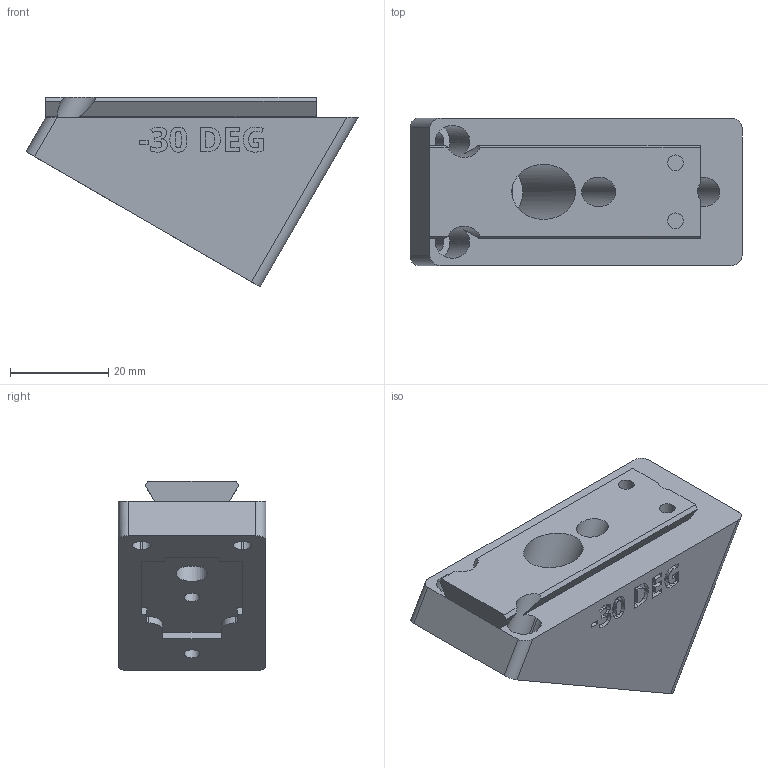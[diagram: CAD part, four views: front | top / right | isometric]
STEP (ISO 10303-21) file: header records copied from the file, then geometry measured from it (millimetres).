
FILE_DESCRIPTION(/* description */ ('STEP AP242 Edition 2','CAx-IF Rec.Pracs.---Representation and Presentation of Product Manufacturing Information (PMI)---4.0---2014-10-13','CAx-IF Rec.Pracs.---3D Tessellated Geometry---0.4---2014-09-14','2;1','CAx-IF Rec.Pracs.---User Defined Attributes---1.5---2016-08-15'),/* implementation_level */ '2;1');
FILE_NAME(/* name */ 'Camera Wedges - CAMERA MOUNTING WEDGE, NEG, -30 DEG',/* time_stamp */ '2026-08-11T00:07:49Z',/* author */ (''),/* organization */ (''),/* preprocessor_version */ 'ST-DEVELOPER v20',/* originating_system */ 'ONSHAPE BY PTC INC, 1.219',/* authorisation */ ' ');
FILE_SCHEMA (('AP242_MANAGED_MODEL_BASED_3D_ENGINEERING_MIM_LF { 1 0 10303 442 3 1 4 }'));
Length unit declared in the file: metre
Products named in the file (1): CAMERA MOUNTING WEDGE, NEG, -30 DEG
Bounding box: 67.53 x 30 x 38.57 mm (x, y, z)
Volume: 38117.8 mm3; surface area: 10852 mm2
Topology: 1 solids, 1 shells, 274 faces, 751 edges, 500 vertices
Faces by surface type: plane 136, bspline 96, cylinder 42
Full cylindrical faces by diameter (mm): 3.2 x4, 6 x2, 6.4 x1, 11.2 x1
Entity records: 8975 total; most frequent: CARTESIAN_POINT 2572, ORIENTED_EDGE 1484, DIRECTION 1007, EDGE_CURVE 742, VERTEX_POINT 499, LINE 451, VECTOR 451, EDGE_LOOP 313
